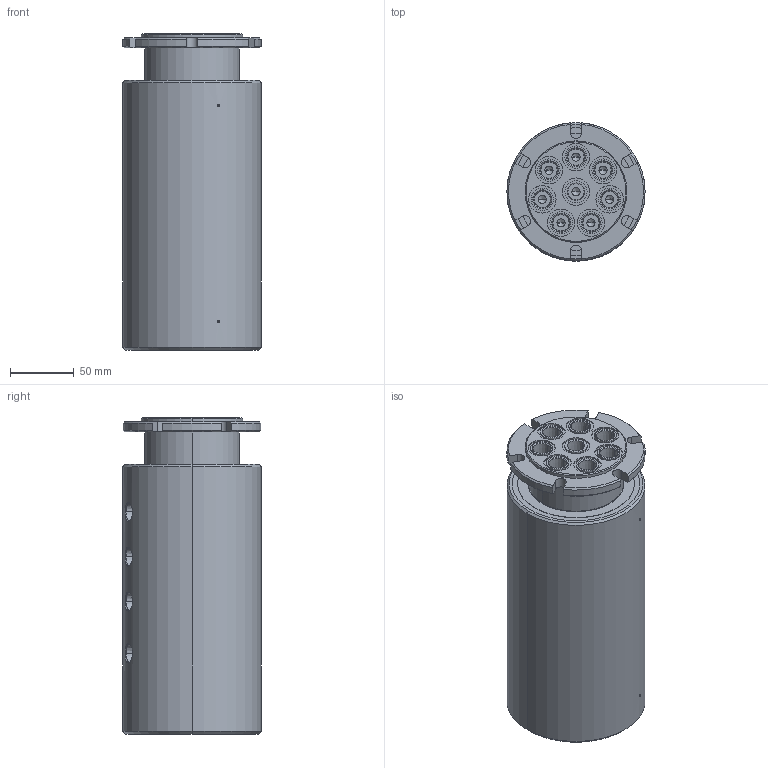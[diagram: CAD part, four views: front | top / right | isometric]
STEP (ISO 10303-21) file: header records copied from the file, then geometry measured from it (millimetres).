
FILE_DESCRIPTION (( 'STEP AP214' ), '1' );
FILE_NAME ('GP(M)-280.STEP', '2013-02-05T22:29:52', ( '' ), ( '' ), 'SwSTEP 2.0', 'SolidWorks 2011', '' );
FILE_SCHEMA (( 'AUTOMOTIVE_DESIGN' ));
Length unit declared in the file: inch
Products named in the file (1): GP(M)-280
Bounding box: 107.95 x 107.95 x 247.24 mm (x, y, z)
Volume: 2056851.1 mm3; surface area: 127203.1 mm2
Topology: 1 solids, 1 shells, 321 faces, 762 edges, 463 vertices
Faces by surface type: cylinder 126, cone 114, plane 63, bspline 16, torus 2
Entity records: 11145 total; most frequent: CARTESIAN_POINT 3099, DIRECTION 1563, ORIENTED_EDGE 1428, EDGE_CURVE 714, AXIS2_PLACEMENT_3D 643, VERTEX_POINT 463, EDGE_LOOP 389, CIRCLE 337
